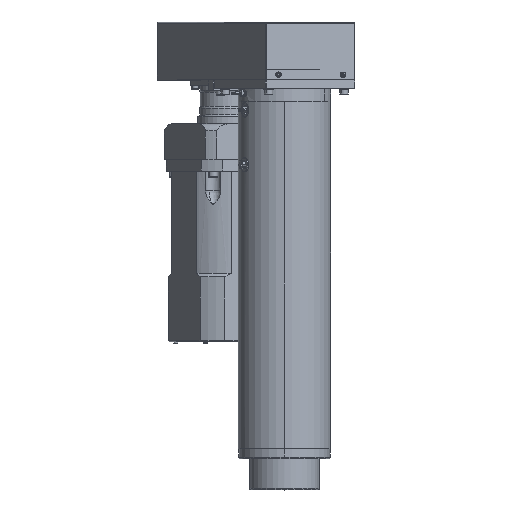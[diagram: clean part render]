
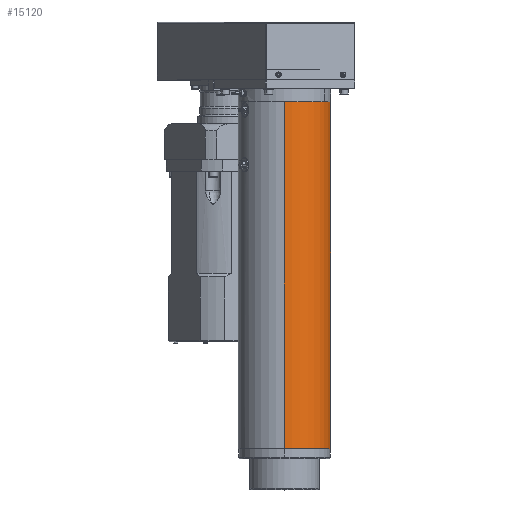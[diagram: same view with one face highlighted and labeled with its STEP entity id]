
A CAD part, top view. The second image highlights one B-rep face of the part: STEP entity #15120.
In plain terms, the highlighted cylindrical face has radius 89 mm (diameter 178 mm), a partial arc.
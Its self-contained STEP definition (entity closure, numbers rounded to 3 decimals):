
#818 = VERTEX_POINT ( 'NONE', #31804 ) ;
#1850 = ORIENTED_EDGE ( 'NONE', *, *, #18823, .T. ) ;
#2420 = DIRECTION ( 'NONE',  ( 0., -1., 0. ) ) ;
#3543 = VERTEX_POINT ( 'NONE', #8082 ) ;
#4111 = FACE_OUTER_BOUND ( 'NONE', #28023, .T. ) ;
#7396 = LINE ( 'NONE', #8277, #33649 ) ;
#8082 = CARTESIAN_POINT ( 'NONE',  ( 0., 690., -89. ) ) ;
#8277 = CARTESIAN_POINT ( 'NONE',  ( 0., 0., 89. ) ) ;
#8802 = CARTESIAN_POINT ( 'NONE',  ( 0., 690., 89. ) ) ;
#11746 = CIRCLE ( 'NONE', #43336, 89. ) ;
#12610 = ORIENTED_EDGE ( 'NONE', *, *, #40321, .F. ) ;
#14054 = DIRECTION ( 'NONE',  ( 0., -1., 0. ) ) ;
#14517 = AXIS2_PLACEMENT_3D ( 'NONE', #19939, #40419, #36965 ) ;
#15120 = ADVANCED_FACE ( 'NONE', ( #4111 ), #29294, .T. ) ;
#15627 = CARTESIAN_POINT ( 'NONE',  ( 0., 690., 0. ) ) ;
#15844 = AXIS2_PLACEMENT_3D ( 'NONE', #15627, #39579, #19106 ) ;
#16249 = CARTESIAN_POINT ( 'NONE',  ( 0., 20., 89. ) ) ;
#17643 = CARTESIAN_POINT ( 'NONE',  ( 0., 0., -89. ) ) ;
#18823 = EDGE_CURVE ( 'NONE', #22780, #29228, #7396, .T. ) ;
#19106 = DIRECTION ( 'NONE',  ( 0., 0., -1. ) ) ;
#19693 = EDGE_CURVE ( 'NONE', #3543, #818, #39980, .T. ) ;
#19939 = CARTESIAN_POINT ( 'NONE',  ( 0., 0., 0. ) ) ;
#21787 = VECTOR ( 'NONE', #14054, 1000. ) ;
#22780 = VERTEX_POINT ( 'NONE', #8802 ) ;
#22925 = CARTESIAN_POINT ( 'NONE',  ( 0., 20., 0. ) ) ;
#26368 = DIRECTION ( 'NONE',  ( 0., 0., -1. ) ) ;
#28023 = EDGE_LOOP ( 'NONE', ( #43052, #1850, #12610, #42025 ) ) ;
#29228 = VERTEX_POINT ( 'NONE', #16249 ) ;
#29294 = CYLINDRICAL_SURFACE ( 'NONE', #14517, 89. ) ;
#31804 = CARTESIAN_POINT ( 'NONE',  ( 0., 20., -89. ) ) ;
#32409 = DIRECTION ( 'NONE',  ( 0., -1., 0. ) ) ;
#33649 = VECTOR ( 'NONE', #32409, 1000. ) ;
#34412 = CIRCLE ( 'NONE', #15844, 89. ) ;
#34888 = EDGE_CURVE ( 'NONE', #3543, #22780, #34412, .T. ) ;
#36965 = DIRECTION ( 'NONE',  ( 0., 0., -1. ) ) ;
#39579 = DIRECTION ( 'NONE',  ( 0., -1., 0. ) ) ;
#39980 = LINE ( 'NONE', #17643, #21787 ) ;
#40321 = EDGE_CURVE ( 'NONE', #818, #29228, #11746, .T. ) ;
#40419 = DIRECTION ( 'NONE',  ( 0., -1., 0. ) ) ;
#42025 = ORIENTED_EDGE ( 'NONE', *, *, #19693, .F. ) ;
#43052 = ORIENTED_EDGE ( 'NONE', *, *, #34888, .T. ) ;
#43336 = AXIS2_PLACEMENT_3D ( 'NONE', #22925, #2420, #26368 ) ;
